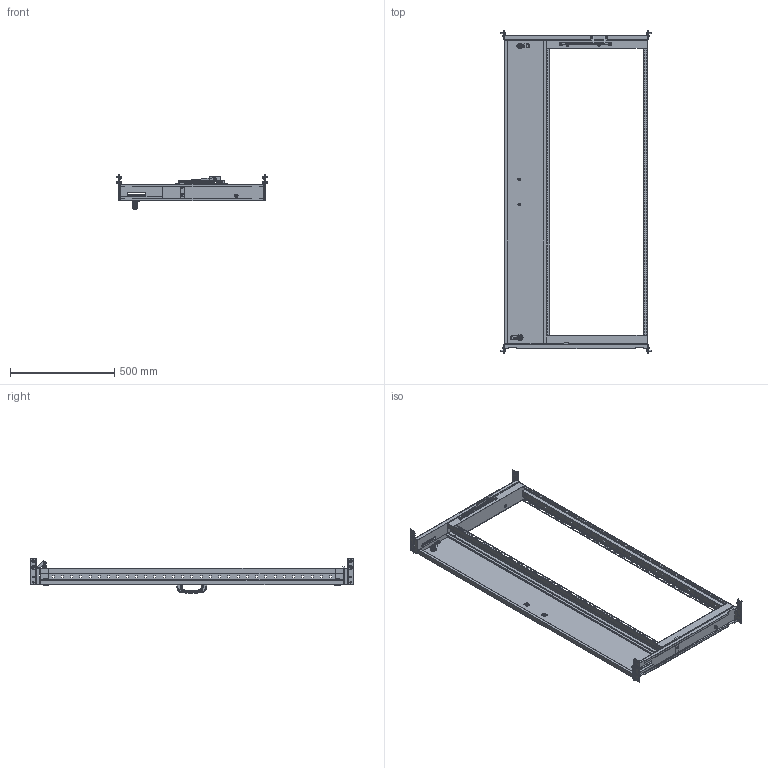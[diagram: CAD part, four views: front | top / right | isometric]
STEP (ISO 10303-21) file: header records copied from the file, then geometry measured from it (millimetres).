
FILE_DESCRIPTION(('Open CASCADE Model'),'2;1');
FILE_NAME('Open CASCADE Shape Model','2025-03-20T10:46:42',('Author'),( 'Open CASCADE'),'Open CASCADE STEP processor 7.8','Open CASCADE 7.8' ,'Unknown');
FILE_SCHEMA(('AUTOMOTIVE_DESIGN { 1 0 10303 214 1 1 1 1 }'));
Length unit declared in the file: millimetre
Products named in the file (33): Compound1; Compound2; Solid1; Solid2; Solid3; Compound3; Solid4; Solid5; Solid6; Solid7; Compound4; Solid8; Solid9; Solid10; Solid11; Solid12; Solid13; Solid14; Solid15; Solid16; Solid17; Solid18; Solid19; Solid20; Solid21; Solid22; Solid23; Solid24; Compound5; Solid25; Solid26; Solid27; Solid28
Assembly tree (54 placements, depth 3):
  Compound1
    Compound2
      Solid1
      Solid2  x2
      Solid3
    Compound3
      Solid4
      Solid2  x2
      Solid3
    Solid5  x2
    Solid6  x2
    Solid7
    Compound4
      Solid8  x2
      Solid9
      Solid10  x2
      Solid11
      Solid12
      Solid13  x2
    Solid14
    Solid15  x2
    Solid16  x2
    Solid17
    Solid18
    Solid19
    Solid20
    Solid21
    Solid22  x2
    Solid23  x4
    Solid24  x8
    Compound5
      Solid25
      Solid26
    Solid27
    Solid28
Bounding box: 726 x 1555 x 165.5 mm (x, y, z)
Volume: 2020449.4 mm3; surface area: 2570149.9 mm2
Topology: 52 solids, 72 shells, 5533 faces, 15428 edges, 9973 vertices
Faces by surface type: plane 3412, cylinder 728, bspline 672, cone 467, torus 176, sphere 78
Entity records: 135655 total; most frequent: CARTESIAN_POINT 50996, ORIENTED_EDGE 18686, DIRECTION 15115, EDGE_CURVE 9522, VERTEX_POINT 6139, LINE 6005, VECTOR 6005, AXIS2_PLACEMENT_3D 4555
